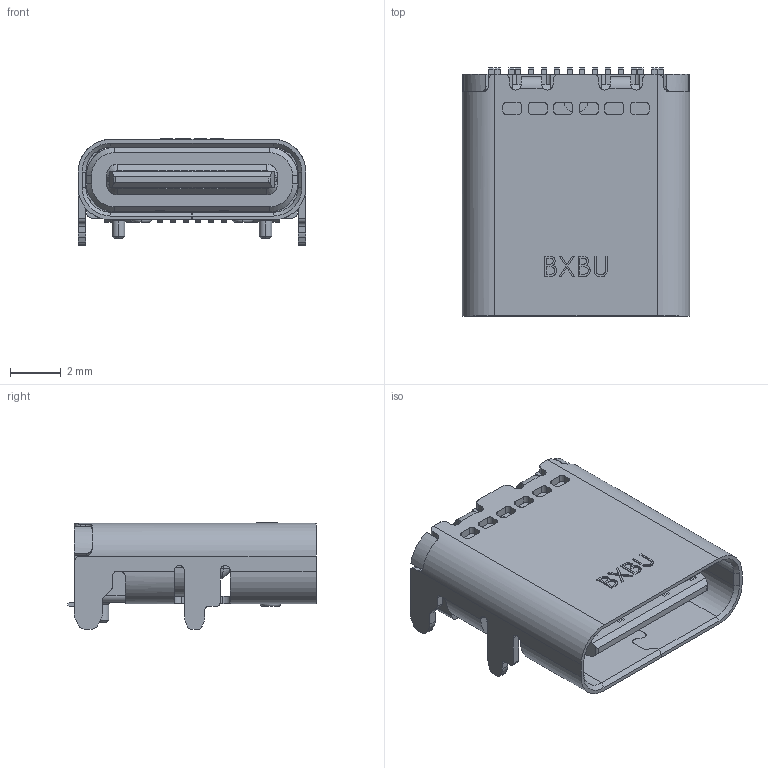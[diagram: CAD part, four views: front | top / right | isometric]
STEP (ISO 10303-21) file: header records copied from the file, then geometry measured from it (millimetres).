
FILE_DESCRIPTION((' '),'2;1');
FILE_NAME( 'U5101-16PN9.5L.stp', '2026-06-01T17:03:11', (' '), ('--- ---'), ' V2026.1 Dec 31 2025', ' 2026 (c)', ' ');
FILE_SCHEMA(('AP242_MANAGED_MODEL_BASED_3D_ENGINEERING_MIM_LF { 1 0 10303 442 1 1 4 }'));
Length unit declared in the file: millimetre
Products named in the file (1): U5101-16PN9.5L
Bounding box: 8.94 x 9.75 x 4.19 mm (x, y, z)
Volume: 166.1 mm3; surface area: 616.6 mm2
Topology: 1 solids, 1 shells, 932 faces, 2648 edges, 1722 vertices
Faces by surface type: plane 603, cylinder 238, bspline 37, torus 28, cone 26
Entity records: 32024 total; most frequent: CARTESIAN_POINT 7901, ORIENTED_EDGE 5296, DIRECTION 4698, EDGE_CURVE 2648, VECTOR 1914, LINE 1914, VERTEX_POINT 1722, AXIS2_PLACEMENT_3D 1392
